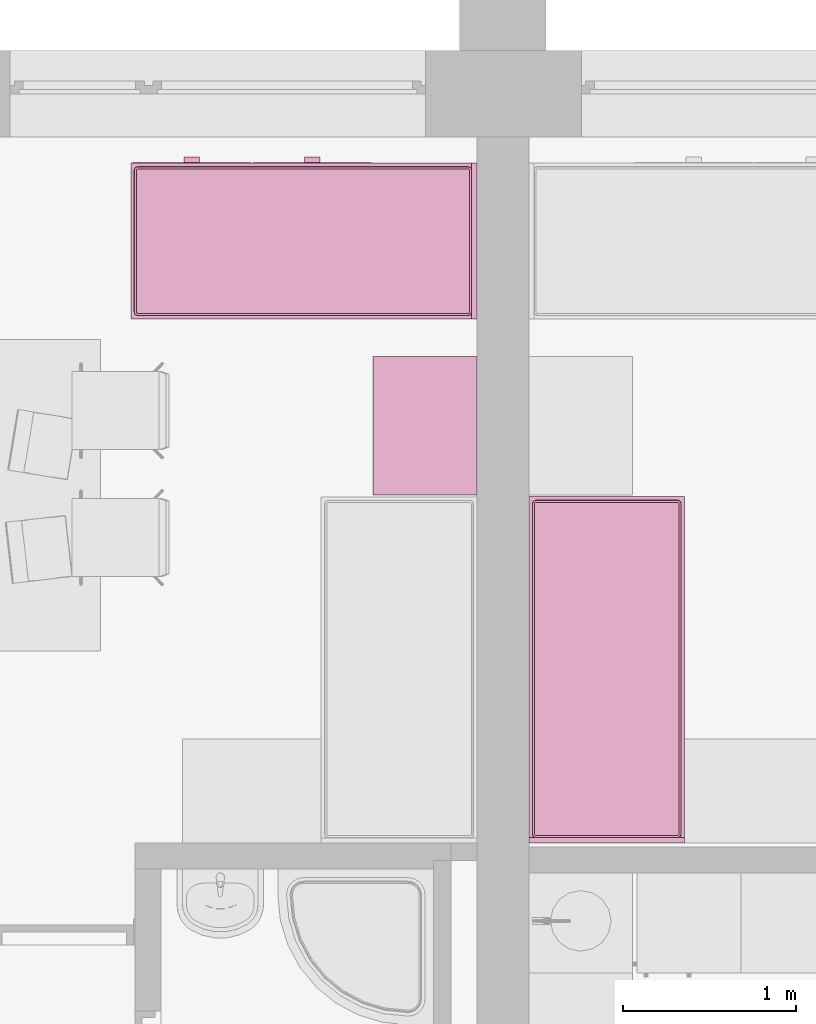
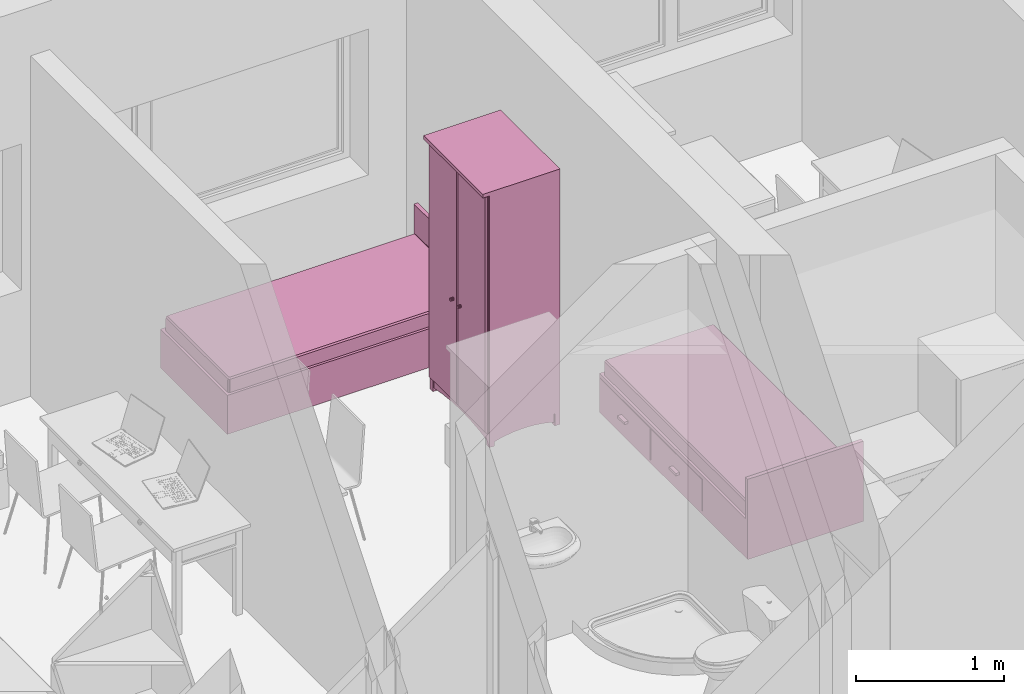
# One storey, part 136 of 165: 3 furnishings.
"""IFC2X3 building model written with IfcOpenShell, lengths in millimetres."""

from ifc_helpers import new_model, entity, si_unit, converted_unit, money_unit, direction, frame, origin_with_axes, place, context, subcontext, project, spatial, faceted_brep, source, transform, mapped, material, material_list, type_object, element, save


model = new_model("IFC2X3")

# Units and contexts
model_context = context("Model", 3, precision=1e-05, world=origin_with_axes(), true_north=direction((0.0, 1.0)))
body_context = subcontext(model_context, "Body", "Model", "MODEL_VIEW")
ifc_project = project(units=[si_unit("LENGTHUNIT", "METRE", prefix="MILLI"), si_unit("AREAUNIT", "SQUARE_METRE"), si_unit("VOLUMEUNIT", "CUBIC_METRE"), converted_unit("PLANEANGLEUNIT", "DEGREE", entity("IfcPlaneAngleMeasure", 0.0174532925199), si_unit("PLANEANGLEUNIT", "RADIAN"), dimensions=[0, 0, 0, 0, 0, 0, 0]), si_unit("SOLIDANGLEUNIT", "STERADIAN"), money_unit("USD"), converted_unit("TIMEUNIT", "Year", entity("IfcTimeMeasure", 31556926.0), si_unit("TIMEUNIT", "SECOND"), dimensions=[0, 0, 0, 0, 0, 0, 0]), si_unit("MASSUNIT", "GRAM"), si_unit("THERMODYNAMICTEMPERATUREUNIT", "DEGREE_CELSIUS"), si_unit("LUMINOUSINTENSITYUNIT", "LUMEN")], contexts=[model_context])

# Site, building, storey
site_placement = place(None, origin_with_axes())
site = spatial("IfcSite", under=ifc_project, at=site_placement, Name="Site", CompositionType="ELEMENT")
building_placement = place(site_placement, origin_with_axes())
building = spatial("IfcBuilding", under=site, at=building_placement, Name="Building", CompositionType="ELEMENT")
storey_placement = place(building_placement, frame((0.0, 0.0, 6300.0), z_axis=(0.0, 0.0, 1.0), x_axis=(1.0, 0.0, 0.0)))
storey = spatial("IfcBuildingStorey", under=building, at=storey_placement, Name="4KORRUS", CompositionType="ELEMENT", Elevation=6300.0)

# Furnishings
ifc_material = material(Name="Background")
ifc_material_list = material_list([ifc_material])
furnishing_element_type_1 = type_object("IfcFurnishingElementType", Name="Bed 19")
shared_shape_1 = source(origin_with_axes(), body_context, "Body", "Brep", [
    faceted_brep([(900.0, 1970.0, 0.0), (0.0, 1970.0, 0.0), (0.0, 2000.0, 0.0), (900.0, 2000.0, 0.0), (900.0, 1970.0, 660.0), (0.0, 1970.0, 660.0), (0.0, 2000.0, 660.0), (900.0, 2000.0, 660.0)], [[[0, 1, 2, 3]], [[1, 0, 4, 5]], [[2, 1, 5, 6]], [[3, 2, 6, 7]], [[0, 3, 7, 4]], [[5, 4, 7, 6]]]),
    faceted_brep([(900.0, 0.0, 0.0), (0.0, 0.0, 0.0), (0.0, 1970.0, 0.0), (900.0, 1970.0, 0.0), (900.0, 0.0, 320.0), (0.0, 0.0, 320.0), (0.0, 1970.0, 320.0), (900.0, 1970.0, 320.0)], [[[0, 1, 2, 3]], [[1, 0, 4, 5]], [[2, 1, 5, 6]], [[3, 2, 6, 7]], [[0, 3, 7, 4]], [[5, 4, 7, 6]]]),
    faceted_brep([(905.0, 10.0, 30.0), (900.0, 10.0, 30.0), (900.0, 695.0, 30.0), (905.0, 695.0, 30.0), (905.0, 10.0, 290.0), (900.0, 10.0, 290.0), (900.0, 695.0, 290.0), (905.0, 695.0, 290.0)], [[[0, 1, 2, 3]], [[1, 0, 4, 5]], [[2, 1, 5, 6]], [[3, 2, 6, 7]], [[0, 3, 7, 4]], [[5, 4, 7, 6]]]),
    faceted_brep([(935.0, 307.5, 150.0), (905.0, 307.5, 150.0), (905.0, 397.5, 150.0), (935.0, 397.5, 150.0), (935.0, 307.5, 170.0), (905.0, 307.5, 170.0), (905.0, 397.5, 170.0), (935.0, 397.5, 170.0)], [[[0, 1, 2, 3]], [[1, 0, 4, 5]], [[2, 1, 5, 6]], [[3, 2, 6, 7]], [[0, 3, 7, 4]], [[5, 4, 7, 6]]]),
    faceted_brep([(905.0, 705.0, 30.0), (900.0, 705.0, 30.0), (900.0, 1390.0, 30.0), (905.0, 1390.0, 30.0), (905.0, 705.0, 290.0), (900.0, 705.0, 290.0), (900.0, 1390.0, 290.0), (905.0, 1390.0, 290.0)], [[[0, 1, 2, 3]], [[1, 0, 4, 5]], [[2, 1, 5, 6]], [[3, 2, 6, 7]], [[0, 3, 7, 4]], [[5, 4, 7, 6]]]),
    faceted_brep([(935.0, 1002.5, 150.0), (905.0, 1002.5, 150.0), (905.0, 1092.5, 150.0), (935.0, 1092.5, 150.0), (935.0, 1002.5, 170.0), (905.0, 1002.5, 170.0), (905.0, 1092.5, 170.0), (935.0, 1092.5, 170.0)], [[[0, 1, 2, 3]], [[1, 0, 4, 5]], [[2, 1, 5, 6]], [[3, 2, 6, 7]], [[0, 3, 7, 4]], [[5, 4, 7, 6]]]),
    faceted_brep([(20.0, 40.0, 350.0), (20.0, 1950.0, 350.0), (21.522, 1957.654, 350.0), (25.858, 1964.142, 350.0), (32.346, 1968.478, 350.0), (40.0, 1970.0, 350.0), (860.0, 1970.0, 350.0), (867.654, 1968.478, 350.0), (874.142, 1964.142, 350.0), (878.478, 1957.654, 350.0), (880.0, 1950.0, 350.0), (880.0, 40.0, 350.0), (878.478, 32.346, 350.0), (874.142, 25.858, 350.0), (867.654, 21.522, 350.0), (860.0, 20.0, 350.0), (40.0, 20.0, 350.0), (32.346, 21.522, 350.0), (25.858, 25.858, 350.0), (21.522, 32.346, 350.0), (20.0, 40.0, 420.0), (20.0, 1950.0, 420.0), (21.522, 1957.654, 420.0), (25.858, 1964.142, 420.0), (32.346, 1968.478, 420.0), (40.0, 1970.0, 420.0), (860.0, 1970.0, 420.0), (867.654, 1968.478, 420.0), (874.142, 1964.142, 420.0), (878.478, 1957.654, 420.0), (880.0, 1950.0, 420.0), (880.0, 40.0, 420.0), (878.478, 32.346, 420.0), (874.142, 25.858, 420.0), (867.654, 21.522, 420.0), (860.0, 20.0, 420.0), (40.0, 20.0, 420.0), (32.346, 21.522, 420.0), (25.858, 25.858, 420.0), (21.522, 32.346, 420.0), (21.522, 40.15, 427.654), (21.522, 1949.85, 427.654), (22.956, 1957.06, 427.654), (26.955, 1963.045, 427.654), (32.94, 1967.044, 427.654), (40.15, 1968.478, 427.654), (859.85, 1968.478, 427.654), (867.06, 1967.044, 427.654), (873.045, 1963.045, 427.654), (877.044, 1957.06, 427.654), (878.478, 1949.85, 427.654), (878.478, 40.15, 427.654), (877.044, 32.94, 427.654), (873.045, 26.955, 427.654), (867.06, 22.956, 427.654), (859.85, 21.522, 427.654), (40.15, 21.522, 427.654), (32.94, 22.956, 427.654), (26.955, 26.955, 427.654), (22.956, 32.94, 427.654), (32.346, 41.216, 438.478), (32.346, 1948.784, 438.478), (33.152, 1952.836, 438.478), (34.759, 1955.241, 438.478), (37.164, 1956.848, 438.478), (41.216, 1957.654, 438.478), (858.784, 1957.654, 438.478), (862.836, 1956.848, 438.478), (865.241, 1955.241, 438.478), (866.848, 1952.836, 438.478), (867.654, 1948.784, 438.478), (867.654, 41.216, 438.478), (866.848, 37.164, 438.478), (865.241, 34.759, 438.478), (862.836, 33.152, 438.478), (858.784, 32.346, 438.478), (41.216, 32.346, 438.478), (37.164, 33.152, 438.478), (34.759, 34.759, 438.478), (33.152, 37.164, 438.478), (40.0, 41.97, 440.0), (40.0, 1948.03, 440.0), (40.327, 1949.673, 440.0), (40.0, 1950.0, 439.924), (41.97, 1950.0, 440.0), (858.03, 1950.0, 440.0), (859.673, 1949.673, 440.0), (860.0, 1950.0, 439.924), (860.0, 1948.03, 440.0), (860.0, 41.97, 440.0), (859.673, 40.327, 440.0), (860.0, 40.0, 439.924), (858.03, 40.0, 440.0), (41.97, 40.0, 440.0), (40.327, 40.327, 440.0), (40.0, 40.0, 439.924)], [[[0, 1, 2, 3, 4, 5, 6, 7, 8, 9, 10, 11, 12, 13, 14, 15, 16, 17, 18, 19]], [[1, 0, 20, 21]], [[2, 1, 21, 22]], [[3, 2, 22, 23]], [[4, 3, 23, 24]], [[5, 4, 24, 25]], [[6, 5, 25, 26]], [[7, 6, 26, 27]], [[8, 7, 27, 28]], [[9, 8, 28, 29]], [[10, 9, 29, 30]], [[11, 10, 30, 31]], [[12, 11, 31, 32]], [[13, 12, 32, 33]], [[14, 13, 33, 34]], [[15, 14, 34, 35]], [[16, 15, 35, 36]], [[17, 16, 36, 37]], [[18, 17, 37, 38]], [[19, 18, 38, 39]], [[0, 19, 39, 20]], [[21, 20, 40, 41]], [[22, 21, 41, 42]], [[23, 22, 42, 43]], [[24, 23, 43, 44]], [[25, 24, 44, 45]], [[26, 25, 45, 46]], [[27, 26, 46, 47]], [[28, 27, 47, 48]], [[29, 28, 48, 49]], [[30, 29, 49, 50]], [[31, 30, 50, 51]], [[32, 31, 51, 52]], [[33, 32, 52, 53]], [[34, 33, 53, 54]], [[35, 34, 54, 55]], [[36, 35, 55, 56]], [[37, 36, 56, 57]], [[38, 37, 57, 58]], [[39, 38, 58, 59]], [[20, 39, 59, 40]], [[41, 40, 60, 61]], [[42, 41, 61, 62]], [[43, 42, 62, 63]], [[44, 43, 63, 64]], [[45, 44, 64, 65]], [[46, 45, 65, 66]], [[47, 46, 66, 67]], [[48, 47, 67, 68]], [[49, 48, 68, 69]], [[50, 49, 69, 70]], [[51, 50, 70, 71]], [[52, 51, 71, 72]], [[53, 52, 72, 73]], [[54, 53, 73, 74]], [[55, 54, 74, 75]], [[56, 55, 75, 76]], [[57, 56, 76, 77]], [[58, 57, 77, 78]], [[59, 58, 78, 79]], [[40, 59, 79, 60]], [[61, 60, 80, 81]], [[62, 61, 81, 82, 83]], [[63, 62, 83]], [[64, 63, 83]], [[65, 64, 83, 82, 84]], [[66, 65, 84, 85]], [[67, 66, 85, 86, 87]], [[68, 67, 87]], [[69, 68, 87]], [[70, 69, 87, 86, 88]], [[71, 70, 88, 89]], [[72, 71, 89, 90, 91]], [[73, 72, 91]], [[74, 73, 91]], [[75, 74, 91, 90, 92]], [[76, 75, 92, 93]], [[77, 76, 93, 94, 95]], [[78, 77, 95]], [[79, 78, 95]], [[60, 79, 95, 94, 80]], [[81, 80, 94, 93, 92, 90, 89, 88, 86, 85, 84, 82]]]),
    faceted_brep([(20.0, 40.0, 350.0), (21.522, 32.346, 350.0), (25.858, 25.858, 350.0), (32.346, 21.522, 350.0), (40.0, 20.0, 350.0), (860.0, 20.0, 350.0), (867.654, 21.522, 350.0), (874.142, 25.858, 350.0), (878.478, 32.346, 350.0), (880.0, 40.0, 350.0), (880.0, 1950.0, 350.0), (878.478, 1957.654, 350.0), (874.142, 1964.142, 350.0), (867.654, 1968.478, 350.0), (860.0, 1970.0, 350.0), (40.0, 1970.0, 350.0), (32.346, 1968.478, 350.0), (25.858, 1964.142, 350.0), (21.522, 1957.654, 350.0), (20.0, 1950.0, 350.0), (20.0, 40.0, 320.0), (21.522, 32.346, 320.0), (25.858, 25.858, 320.0), (32.346, 21.522, 320.0), (40.0, 20.0, 320.0), (860.0, 20.0, 320.0), (867.654, 21.522, 320.0), (874.142, 25.858, 320.0), (878.478, 32.346, 320.0), (880.0, 40.0, 320.0), (880.0, 1950.0, 320.0), (878.478, 1957.654, 320.0), (874.142, 1964.142, 320.0), (867.654, 1968.478, 320.0), (860.0, 1970.0, 320.0), (40.0, 1970.0, 320.0), (32.346, 1968.478, 320.0), (25.858, 1964.142, 320.0), (21.522, 1957.654, 320.0), (20.0, 1950.0, 320.0)], [[[0, 1, 2, 3, 4, 5, 6, 7, 8, 9, 10, 11, 12, 13, 14, 15, 16, 17, 18, 19]], [[0, 20, 21, 1]], [[1, 21, 22, 2]], [[2, 22, 23, 3]], [[3, 23, 24, 4]], [[4, 24, 25, 5]], [[5, 25, 26, 6]], [[6, 26, 27, 7]], [[7, 27, 28, 8]], [[8, 28, 29, 9]], [[9, 29, 30, 10]], [[10, 30, 31, 11]], [[11, 31, 32, 12]], [[12, 32, 33, 13]], [[13, 33, 34, 14]], [[14, 34, 35, 15]], [[15, 35, 36, 16]], [[16, 36, 37, 17]], [[17, 37, 38, 18]], [[18, 38, 39, 19]], [[19, 39, 20, 0]], [[20, 39, 38, 37, 36, 35, 34, 33, 32, 31, 30, 29, 28, 27, 26, 25, 24, 23, 22, 21]]]),
])
furnishing_1_placement = place(storey_placement, frame((6909.70329669, -7216.37850445, 0.0), z_axis=(0.0, 0.0, 1.0), x_axis=(-1.0, 0.0, 0.0)))
element("IfcFurnishingElement", 1, at=furnishing_1_placement, inside=storey, type_object=furnishing_element_type_1, material=ifc_material_list, Name="FU - 013", context=body_context, shape_type="MappedRepresentation", body=[
    mapped(shared_shape_1, transform((0.0, 0.0, 0.0))),
])
furnishing_element_type_2 = type_object("IfcFurnishingElementType", Name="Cupboard 19")
shared_shape_2 = source(origin_with_axes(), body_context, "Body", "Brep", [
    faceted_brep([(-780.0, 600.0, 120.0), (-780.0, 580.0, 120.0), (-780.0, 580.0, 2050.0), (-780.0, 600.0, 2050.0), (-20.0, 600.0, 120.0), (-20.0, 580.0, 120.0), (-20.0, 580.0, 2050.0), (-20.0, 600.0, 2050.0)], [[[0, 1, 2, 3]], [[0, 4, 5, 1]], [[1, 5, 6, 2]], [[3, 2, 6, 7]], [[4, 0, 3, 7]], [[5, 4, 7, 6]]]),
    faceted_brep([(0.0, 50.0, 100.0), (-20.0, 50.0, 100.0), (-20.0, 600.0, 100.0), (0.0, 600.0, 100.0), (0.0, 50.0, 2070.0), (-20.0, 50.0, 2070.0), (-20.0, 600.0, 2070.0), (0.0, 600.0, 2070.0)], [[[0, 1, 2, 3]], [[1, 0, 4, 5]], [[2, 1, 5, 6]], [[3, 2, 6, 7]], [[0, 3, 7, 4]], [[5, 4, 7, 6]]]),
    faceted_brep([(-780.0, 50.0, 100.0), (-800.0, 50.0, 100.0), (-800.0, 600.0, 100.0), (-780.0, 600.0, 100.0), (-780.0, 50.0, 2070.0), (-800.0, 50.0, 2070.0), (-800.0, 600.0, 2070.0), (-780.0, 600.0, 2070.0)], [[[0, 1, 2, 3]], [[1, 0, 4, 5]], [[2, 1, 5, 6]], [[3, 2, 6, 7]], [[0, 3, 7, 4]], [[5, 4, 7, 6]]]),
    faceted_brep([(-20.0, 50.0, 100.0), (-780.0, 50.0, 100.0), (-780.0, 600.0, 100.0), (-20.0, 600.0, 100.0), (-20.0, 50.0, 120.0), (-780.0, 50.0, 120.0), (-780.0, 600.0, 120.0), (-20.0, 600.0, 120.0)], [[[0, 1, 2, 3]], [[1, 0, 4, 5]], [[2, 1, 5, 6]], [[3, 2, 6, 7]], [[0, 3, 7, 4]], [[5, 4, 7, 6]]]),
    faceted_brep([(-20.0, 50.0, 2050.0), (-780.0, 50.0, 2050.0), (-780.0, 600.0, 2050.0), (-20.0, 600.0, 2050.0), (-20.0, 50.0, 2070.0), (-780.0, 50.0, 2070.0), (-780.0, 600.0, 2070.0), (-20.0, 600.0, 2070.0)], [[[0, 1, 2, 3]], [[1, 0, 4, 5]], [[2, 1, 5, 6]], [[3, 2, 6, 7]], [[0, 3, 7, 4]], [[5, 4, 7, 6]]]),
    faceted_brep([(0.0, 600.0, 2070.0), (0.0, 600.0, 2100.0), (0.0, 0.0, 2100.0), (0.0, 0.0, 2070.0), (-800.0, 600.0, 2070.0), (-800.0, 600.0, 2100.0), (-800.0, 0.0, 2100.0), (-800.0, 0.0, 2070.0)], [[[0, 1, 2, 3]], [[4, 5, 1, 0]], [[1, 5, 6, 2]], [[3, 2, 6, 7]], [[0, 3, 7, 4]], [[7, 6, 5, 4]]]),
    faceted_brep([(-760.0, 590.0, 25.0), (-640.962, 590.0, 45.8), (-640.962, 570.0, 45.8), (-760.0, 570.0, 25.0), (-760.0, 590.0, 100.0), (-40.0, 590.0, 100.0), (-40.0, 590.0, 25.0), (-159.038, 590.0, 45.8), (-279.23, 590.0, 58.32), (-400.0, 590.0, 62.5), (-520.77, 590.0, 58.32), (-520.77, 570.0, 58.32), (-400.0, 570.0, 62.5), (-279.23, 570.0, 58.32), (-159.038, 570.0, 45.8), (-40.0, 570.0, 25.0), (-40.0, 570.0, 100.0), (-760.0, 570.0, 100.0)], [[[0, 1, 2, 3]], [[0, 4, 5, 6, 7, 8, 9, 10, 1]], [[1, 10, 11, 2]], [[3, 2, 11, 12, 13, 14, 15, 16, 17]], [[4, 0, 3, 17]], [[5, 4, 17, 16]], [[6, 5, 16, 15]], [[7, 6, 15, 14]], [[8, 7, 14, 13]], [[9, 8, 13, 12]], [[10, 9, 12, 11]]]),
    faceted_brep([(-760.0, 80.0, 25.0), (-640.962, 80.0, 45.8), (-640.962, 60.0, 45.8), (-760.0, 60.0, 25.0), (-760.0, 80.0, 100.0), (-40.0, 80.0, 100.0), (-40.0, 80.0, 25.0), (-159.038, 80.0, 45.8), (-279.23, 80.0, 58.32), (-400.0, 80.0, 62.5), (-520.77, 80.0, 58.32), (-520.77, 60.0, 58.32), (-400.0, 60.0, 62.5), (-279.23, 60.0, 58.32), (-159.038, 60.0, 45.8), (-40.0, 60.0, 25.0), (-40.0, 60.0, 100.0), (-760.0, 60.0, 100.0)], [[[0, 1, 2, 3]], [[0, 4, 5, 6, 7, 8, 9, 10, 1]], [[1, 10, 11, 2]], [[3, 2, 11, 12, 13, 14, 15, 16, 17]], [[4, 0, 3, 17]], [[5, 4, 17, 16]], [[6, 5, 16, 15]], [[7, 6, 15, 14]], [[8, 7, 14, 13]], [[9, 8, 13, 12]], [[10, 9, 12, 11]]]),
    faceted_brep([(-790.0, 90.0, 25.0), (-790.0, 141.266, 38.072), (-770.0, 141.266, 38.072), (-770.0, 90.0, 25.0), (-790.0, 90.0, 100.0), (-790.0, 560.0, 100.0), (-790.0, 560.0, 25.0), (-790.0, 508.734, 38.072), (-790.0, 456.752, 47.92), (-790.0, 404.257, 54.508), (-790.0, 351.453, 57.808), (-790.0, 298.547, 57.808), (-790.0, 245.743, 54.508), (-790.0, 193.248, 47.92), (-770.0, 193.248, 47.92), (-770.0, 245.743, 54.508), (-770.0, 298.547, 57.808), (-770.0, 351.453, 57.808), (-770.0, 404.257, 54.508), (-770.0, 456.752, 47.92), (-770.0, 508.734, 38.072), (-770.0, 560.0, 25.0), (-770.0, 560.0, 100.0), (-770.0, 90.0, 100.0)], [[[0, 1, 2, 3]], [[0, 4, 5, 6, 7, 8, 9, 10, 11, 12, 13, 1]], [[1, 13, 14, 2]], [[3, 2, 14, 15, 16, 17, 18, 19, 20, 21, 22, 23]], [[4, 0, 3, 23]], [[5, 4, 23, 22]], [[6, 5, 22, 21]], [[7, 6, 21, 20]], [[8, 7, 20, 19]], [[9, 8, 19, 18]], [[10, 9, 18, 17]], [[11, 10, 17, 16]], [[12, 11, 16, 15]], [[13, 12, 15, 14]]]),
    faceted_brep([(-30.0, 90.0, 25.0), (-30.0, 141.266, 38.072), (-10.0, 141.266, 38.072), (-10.0, 90.0, 25.0), (-30.0, 90.0, 100.0), (-30.0, 560.0, 100.0), (-30.0, 560.0, 25.0), (-30.0, 508.734, 38.072), (-30.0, 456.752, 47.92), (-30.0, 404.257, 54.508), (-30.0, 351.453, 57.808), (-30.0, 298.547, 57.808), (-30.0, 245.743, 54.508), (-30.0, 193.248, 47.92), (-10.0, 193.248, 47.92), (-10.0, 245.743, 54.508), (-10.0, 298.547, 57.808), (-10.0, 351.453, 57.808), (-10.0, 404.257, 54.508), (-10.0, 456.752, 47.92), (-10.0, 508.734, 38.072), (-10.0, 560.0, 25.0), (-10.0, 560.0, 100.0), (-10.0, 90.0, 100.0)], [[[0, 1, 2, 3]], [[0, 4, 5, 6, 7, 8, 9, 10, 11, 12, 13, 1]], [[1, 13, 14, 2]], [[3, 2, 14, 15, 16, 17, 18, 19, 20, 21, 22, 23]], [[4, 0, 3, 23]], [[5, 4, 23, 22]], [[6, 5, 22, 21]], [[7, 6, 21, 20]], [[8, 7, 20, 19]], [[9, 8, 19, 18]], [[10, 9, 18, 17]], [[11, 10, 17, 16]], [[12, 11, 16, 15]], [[13, 12, 15, 14]]]),
    faceted_brep([(-760.0, 560.0, 0.0), (-760.0, 600.0, 0.0), (-760.0, 600.0, 100.0), (-760.0, 560.0, 100.0), (-800.0, 560.0, 0.0), (-800.0, 600.0, 0.0), (-800.0, 600.0, 100.0), (-800.0, 560.0, 100.0)], [[[0, 1, 2, 3]], [[0, 4, 5, 1]], [[1, 5, 6, 2]], [[3, 2, 6, 7]], [[4, 0, 3, 7]], [[5, 4, 7, 6]]]),
    faceted_brep([(0.0, 560.0, 0.0), (0.0, 600.0, 0.0), (0.0, 600.0, 100.0), (0.0, 560.0, 100.0), (-40.0, 560.0, 0.0), (-40.0, 600.0, 0.0), (-40.0, 600.0, 100.0), (-40.0, 560.0, 100.0)], [[[0, 1, 2, 3]], [[0, 4, 5, 1]], [[1, 5, 6, 2]], [[3, 2, 6, 7]], [[4, 0, 3, 7]], [[5, 4, 7, 6]]]),
    faceted_brep([(-760.0, 50.0, 0.0), (-760.0, 90.0, 0.0), (-760.0, 90.0, 100.0), (-760.0, 50.0, 100.0), (-800.0, 50.0, 0.0), (-800.0, 90.0, 0.0), (-800.0, 90.0, 100.0), (-800.0, 50.0, 100.0)], [[[0, 1, 2, 3]], [[0, 4, 5, 1]], [[1, 5, 6, 2]], [[3, 2, 6, 7]], [[4, 0, 3, 7]], [[5, 4, 7, 6]]]),
    faceted_brep([(0.0, 50.0, 0.0), (0.0, 90.0, 0.0), (0.0, 90.0, 100.0), (0.0, 50.0, 100.0), (-40.0, 50.0, 0.0), (-40.0, 90.0, 0.0), (-40.0, 90.0, 100.0), (-40.0, 50.0, 100.0)], [[[0, 1, 2, 3]], [[0, 4, 5, 1]], [[1, 5, 6, 2]], [[3, 2, 6, 7]], [[4, 0, 3, 7]], [[5, 4, 7, 6]]]),
    faceted_brep([(-780.0, 580.0, 587.5), (-780.0, 50.0, 587.5), (-780.0, 50.0, 607.5), (-780.0, 580.0, 607.5), (-20.0, 580.0, 587.5), (-20.0, 50.0, 587.5), (-20.0, 50.0, 607.5), (-20.0, 580.0, 607.5)], [[[0, 1, 2, 3]], [[0, 4, 5, 1]], [[1, 5, 6, 2]], [[3, 2, 6, 7]], [[4, 0, 3, 7]], [[5, 4, 7, 6]]]),
    faceted_brep([(-780.0, 580.0, 1075.0), (-780.0, 50.0, 1075.0), (-780.0, 50.0, 1095.0), (-780.0, 580.0, 1095.0), (-20.0, 580.0, 1075.0), (-20.0, 50.0, 1075.0), (-20.0, 50.0, 1095.0), (-20.0, 580.0, 1095.0)], [[[0, 1, 2, 3]], [[0, 4, 5, 1]], [[1, 5, 6, 2]], [[3, 2, 6, 7]], [[4, 0, 3, 7]], [[5, 4, 7, 6]]]),
    faceted_brep([(-780.0, 580.0, 1562.5), (-780.0, 50.0, 1562.5), (-780.0, 50.0, 1582.5), (-780.0, 580.0, 1582.5), (-20.0, 580.0, 1562.5), (-20.0, 50.0, 1562.5), (-20.0, 50.0, 1582.5), (-20.0, 580.0, 1582.5)], [[[0, 1, 2, 3]], [[0, 4, 5, 1]], [[1, 5, 6, 2]], [[3, 2, 6, 7]], [[4, 0, 3, 7]], [[5, 4, 7, 6]]]),
    faceted_brep([(-789.5, 50.0, 110.5), (-789.5, 50.0, 2059.5), (-400.5, 50.0, 2059.5), (-400.5, 50.0, 110.5), (-789.5, 40.0, 110.5), (-789.5, 40.0, 2059.5), (-400.5, 40.0, 2059.5), (-400.5, 40.0, 110.5), (-779.5, 30.0, 120.5), (-779.5, 30.0, 2049.5), (-410.5, 30.0, 2049.5), (-410.5, 30.0, 120.5)], [[[0, 1, 2, 3]], [[1, 0, 4, 5]], [[2, 1, 5, 6]], [[3, 2, 6, 7]], [[0, 3, 7, 4]], [[5, 4, 8, 9]], [[6, 5, 9, 10]], [[7, 6, 10, 11]], [[4, 7, 11, 8]], [[10, 9, 8, 11]]]),
    faceted_brep([(-399.5, 50.0, 110.5), (-399.5, 50.0, 2059.5), (-10.5, 50.0, 2059.5), (-10.5, 50.0, 110.5), (-399.5, 40.0, 110.5), (-399.5, 40.0, 2059.5), (-10.5, 40.0, 2059.5), (-10.5, 40.0, 110.5), (-389.5, 30.0, 120.5), (-389.5, 30.0, 2049.5), (-20.5, 30.0, 2049.5), (-20.5, 30.0, 120.5)], [[[0, 1, 2, 3]], [[1, 0, 4, 5]], [[2, 1, 5, 6]], [[3, 2, 6, 7]], [[0, 3, 7, 4]], [[5, 4, 8, 9]], [[6, 5, 9, 10]], [[7, 6, 10, 11]], [[4, 7, 11, 8]], [[10, 9, 8, 11]]]),
    faceted_brep([(-339.608, 30.0, 954.0), (-344.0, 30.0, 949.608), (-350.0, 30.0, 948.0), (-356.0, 30.0, 949.608), (-360.392, 30.0, 954.0), (-362.0, 30.0, 960.0), (-360.392, 30.0, 966.0), (-356.0, 30.0, 970.392), (-350.0, 30.0, 972.0), (-344.0, 30.0, 970.392), (-339.608, 30.0, 966.0), (-338.0, 30.0, 960.0), (-339.608, 5.0, 954.0), (-344.0, 5.0, 949.608), (-350.0, 5.0, 948.0), (-356.0, 5.0, 949.608), (-360.392, 5.0, 954.0), (-362.0, 5.0, 960.0), (-360.392, 5.0, 966.0), (-356.0, 5.0, 970.392), (-350.0, 5.0, 972.0), (-344.0, 5.0, 970.392), (-339.608, 5.0, 966.0), (-338.0, 5.0, 960.0)], [[[0, 1, 2, 3, 4, 5, 6, 7, 8, 9, 10, 11]], [[1, 0, 12, 13]], [[2, 1, 13, 14]], [[3, 2, 14, 15]], [[4, 3, 15, 16]], [[5, 4, 16, 17]], [[6, 5, 17, 18]], [[7, 6, 18, 19]], [[8, 7, 19, 20]], [[9, 8, 20, 21]], [[10, 9, 21, 22]], [[11, 10, 22, 23]], [[0, 11, 23, 12]], [[12, 23, 22, 21, 20, 19, 18, 17, 16, 15, 14, 13]]]),
    faceted_brep([(-460.392, 30.0, 954.0), (-462.0, 30.0, 960.0), (-460.392, 30.0, 966.0), (-456.0, 30.0, 970.392), (-450.0, 30.0, 972.0), (-444.0, 30.0, 970.392), (-439.608, 30.0, 966.0), (-438.0, 30.0, 960.0), (-439.608, 30.0, 954.0), (-444.0, 30.0, 949.608), (-450.0, 30.0, 948.0), (-456.0, 30.0, 949.608), (-460.392, 5.0, 954.0), (-462.0, 5.0, 960.0), (-460.392, 5.0, 966.0), (-456.0, 5.0, 970.392), (-450.0, 5.0, 972.0), (-444.0, 5.0, 970.392), (-439.608, 5.0, 966.0), (-438.0, 5.0, 960.0), (-439.608, 5.0, 954.0), (-444.0, 5.0, 949.608), (-450.0, 5.0, 948.0), (-456.0, 5.0, 949.608)], [[[0, 1, 2, 3, 4, 5, 6, 7, 8, 9, 10, 11]], [[0, 12, 13, 1]], [[1, 13, 14, 2]], [[2, 14, 15, 3]], [[3, 15, 16, 4]], [[4, 16, 17, 5]], [[5, 17, 18, 6]], [[6, 18, 19, 7]], [[7, 19, 20, 8]], [[8, 20, 21, 9]], [[9, 21, 22, 10]], [[10, 22, 23, 11]], [[11, 23, 12, 0]], [[12, 23, 22, 21, 20, 19, 18, 17, 16, 15, 14, 13]]]),
])
furnishing_2_placement = place(storey_placement, frame((5109.70329669, -7207.41563755, 0.0), z_axis=(0.0, 0.0, 1.0), x_axis=(0.0, -1.0, 0.0)))
element("IfcFurnishingElement", 2, at=furnishing_2_placement, inside=storey, type_object=furnishing_element_type_2, material=ifc_material_list, Name="FU - 014", context=body_context, shape_type="MappedRepresentation", body=[
    mapped(shared_shape_2, transform((0.0, 0.0, 0.0))),
])
shared_shape_3 = source(origin_with_axes(), body_context, "Body", "Brep", [
    faceted_brep([(-900.0, 1970.0, 0.0), (-900.0, 2000.0, 0.0), (0.0, 2000.0, 0.0), (0.0, 1970.0, 0.0), (-900.0, 1970.0, 660.0), (-900.0, 2000.0, 660.0), (0.0, 2000.0, 660.0), (0.0, 1970.0, 660.0)], [[[0, 1, 2, 3]], [[0, 4, 5, 1]], [[1, 5, 6, 2]], [[2, 6, 7, 3]], [[3, 7, 4, 0]], [[7, 6, 5, 4]]]),
    faceted_brep([(-900.0, 0.0, 0.0), (-900.0, 1970.0, 0.0), (0.0, 1970.0, 0.0), (0.0, 0.0, 0.0), (-900.0, 0.0, 320.0), (-900.0, 1970.0, 320.0), (0.0, 1970.0, 320.0), (0.0, 0.0, 320.0)], [[[0, 1, 2, 3]], [[0, 4, 5, 1]], [[1, 5, 6, 2]], [[2, 6, 7, 3]], [[3, 7, 4, 0]], [[7, 6, 5, 4]]]),
    faceted_brep([(-905.0, 10.0, 30.0), (-905.0, 695.0, 30.0), (-900.0, 695.0, 30.0), (-900.0, 10.0, 30.0), (-905.0, 10.0, 290.0), (-905.0, 695.0, 290.0), (-900.0, 695.0, 290.0), (-900.0, 10.0, 290.0)], [[[0, 1, 2, 3]], [[0, 4, 5, 1]], [[1, 5, 6, 2]], [[2, 6, 7, 3]], [[3, 7, 4, 0]], [[7, 6, 5, 4]]]),
    faceted_brep([(-935.0, 307.5, 150.0), (-935.0, 397.5, 150.0), (-905.0, 397.5, 150.0), (-905.0, 307.5, 150.0), (-935.0, 307.5, 170.0), (-935.0, 397.5, 170.0), (-905.0, 397.5, 170.0), (-905.0, 307.5, 170.0)], [[[0, 1, 2, 3]], [[0, 4, 5, 1]], [[1, 5, 6, 2]], [[2, 6, 7, 3]], [[3, 7, 4, 0]], [[7, 6, 5, 4]]]),
    faceted_brep([(-905.0, 705.0, 30.0), (-905.0, 1390.0, 30.0), (-900.0, 1390.0, 30.0), (-900.0, 705.0, 30.0), (-905.0, 705.0, 290.0), (-905.0, 1390.0, 290.0), (-900.0, 1390.0, 290.0), (-900.0, 705.0, 290.0)], [[[0, 1, 2, 3]], [[0, 4, 5, 1]], [[1, 5, 6, 2]], [[2, 6, 7, 3]], [[3, 7, 4, 0]], [[7, 6, 5, 4]]]),
    faceted_brep([(-935.0, 1002.5, 150.0), (-935.0, 1092.5, 150.0), (-905.0, 1092.5, 150.0), (-905.0, 1002.5, 150.0), (-935.0, 1002.5, 170.0), (-935.0, 1092.5, 170.0), (-905.0, 1092.5, 170.0), (-905.0, 1002.5, 170.0)], [[[0, 1, 2, 3]], [[0, 4, 5, 1]], [[1, 5, 6, 2]], [[2, 6, 7, 3]], [[3, 7, 4, 0]], [[7, 6, 5, 4]]]),
    faceted_brep([(-20.0, 40.0, 350.0), (-21.522, 32.346, 350.0), (-25.858, 25.858, 350.0), (-32.346, 21.522, 350.0), (-40.0, 20.0, 350.0), (-860.0, 20.0, 350.0), (-867.654, 21.522, 350.0), (-874.142, 25.858, 350.0), (-878.478, 32.346, 350.0), (-880.0, 40.0, 350.0), (-880.0, 1950.0, 350.0), (-878.478, 1957.654, 350.0), (-874.142, 1964.142, 350.0), (-867.654, 1968.478, 350.0), (-860.0, 1970.0, 350.0), (-40.0, 1970.0, 350.0), (-32.346, 1968.478, 350.0), (-25.858, 1964.142, 350.0), (-21.522, 1957.654, 350.0), (-20.0, 1950.0, 350.0), (-20.0, 40.0, 420.0), (-21.522, 32.346, 420.0), (-25.858, 25.858, 420.0), (-32.346, 21.522, 420.0), (-40.0, 20.0, 420.0), (-860.0, 20.0, 420.0), (-867.654, 21.522, 420.0), (-874.142, 25.858, 420.0), (-878.478, 32.346, 420.0), (-880.0, 40.0, 420.0), (-880.0, 1950.0, 420.0), (-878.478, 1957.654, 420.0), (-874.142, 1964.142, 420.0), (-867.654, 1968.478, 420.0), (-860.0, 1970.0, 420.0), (-40.0, 1970.0, 420.0), (-32.346, 1968.478, 420.0), (-25.858, 1964.142, 420.0), (-21.522, 1957.654, 420.0), (-20.0, 1950.0, 420.0), (-21.522, 40.15, 427.654), (-22.956, 32.94, 427.654), (-26.955, 26.955, 427.654), (-32.94, 22.956, 427.654), (-40.15, 21.522, 427.654), (-859.85, 21.522, 427.654), (-867.06, 22.956, 427.654), (-873.045, 26.955, 427.654), (-877.044, 32.94, 427.654), (-878.478, 40.15, 427.654), (-878.478, 1949.85, 427.654), (-877.044, 1957.06, 427.654), (-873.045, 1963.045, 427.654), (-867.06, 1967.044, 427.654), (-859.85, 1968.478, 427.654), (-40.15, 1968.478, 427.654), (-32.94, 1967.044, 427.654), (-26.955, 1963.045, 427.654), (-22.956, 1957.06, 427.654), (-21.522, 1949.85, 427.654), (-32.346, 41.216, 438.478), (-33.152, 37.164, 438.478), (-34.759, 34.759, 438.478), (-37.164, 33.152, 438.478), (-41.216, 32.346, 438.478), (-858.784, 32.346, 438.478), (-862.836, 33.152, 438.478), (-865.241, 34.759, 438.478), (-866.848, 37.164, 438.478), (-867.654, 41.216, 438.478), (-867.654, 1948.784, 438.478), (-866.848, 1952.836, 438.478), (-865.241, 1955.241, 438.478), (-862.836, 1956.848, 438.478), (-858.784, 1957.654, 438.478), (-41.216, 1957.654, 438.478), (-37.164, 1956.848, 438.478), (-34.759, 1955.241, 438.478), (-33.152, 1952.836, 438.478), (-32.346, 1948.784, 438.478), (-40.0, 41.97, 440.0), (-40.327, 40.327, 440.0), (-40.0, 40.0, 439.924), (-41.97, 40.0, 440.0), (-858.03, 40.0, 440.0), (-859.673, 40.327, 440.0), (-860.0, 40.0, 439.924), (-860.0, 41.97, 440.0), (-860.0, 1948.03, 440.0), (-859.673, 1949.673, 440.0), (-860.0, 1950.0, 439.924), (-858.03, 1950.0, 440.0), (-41.97, 1950.0, 440.0), (-40.327, 1949.673, 440.0), (-40.0, 1950.0, 439.924), (-40.0, 1948.03, 440.0)], [[[0, 1, 2, 3, 4, 5, 6, 7, 8, 9, 10, 11, 12, 13, 14, 15, 16, 17, 18, 19]], [[0, 20, 21, 1]], [[1, 21, 22, 2]], [[2, 22, 23, 3]], [[3, 23, 24, 4]], [[4, 24, 25, 5]], [[5, 25, 26, 6]], [[6, 26, 27, 7]], [[7, 27, 28, 8]], [[8, 28, 29, 9]], [[9, 29, 30, 10]], [[10, 30, 31, 11]], [[11, 31, 32, 12]], [[12, 32, 33, 13]], [[13, 33, 34, 14]], [[14, 34, 35, 15]], [[15, 35, 36, 16]], [[16, 36, 37, 17]], [[17, 37, 38, 18]], [[18, 38, 39, 19]], [[19, 39, 20, 0]], [[20, 40, 41, 21]], [[21, 41, 42, 22]], [[22, 42, 43, 23]], [[23, 43, 44, 24]], [[24, 44, 45, 25]], [[25, 45, 46, 26]], [[26, 46, 47, 27]], [[27, 47, 48, 28]], [[28, 48, 49, 29]], [[29, 49, 50, 30]], [[30, 50, 51, 31]], [[31, 51, 52, 32]], [[32, 52, 53, 33]], [[33, 53, 54, 34]], [[34, 54, 55, 35]], [[35, 55, 56, 36]], [[36, 56, 57, 37]], [[37, 57, 58, 38]], [[38, 58, 59, 39]], [[39, 59, 40, 20]], [[40, 60, 61, 41]], [[41, 61, 62, 42]], [[42, 62, 63, 43]], [[43, 63, 64, 44]], [[44, 64, 65, 45]], [[45, 65, 66, 46]], [[46, 66, 67, 47]], [[47, 67, 68, 48]], [[48, 68, 69, 49]], [[49, 69, 70, 50]], [[50, 70, 71, 51]], [[51, 71, 72, 52]], [[52, 72, 73, 53]], [[53, 73, 74, 54]], [[54, 74, 75, 55]], [[55, 75, 76, 56]], [[56, 76, 77, 57]], [[57, 77, 78, 58]], [[58, 78, 79, 59]], [[59, 79, 60, 40]], [[60, 80, 81, 82, 61]], [[61, 82, 62]], [[62, 82, 63]], [[63, 82, 81, 83, 64]], [[64, 83, 84, 65]], [[65, 84, 85, 86, 66]], [[66, 86, 67]], [[67, 86, 68]], [[68, 86, 85, 87, 69]], [[69, 87, 88, 70]], [[70, 88, 89, 90, 71]], [[71, 90, 72]], [[72, 90, 73]], [[73, 90, 89, 91, 74]], [[74, 91, 92, 75]], [[75, 92, 93, 94, 76]], [[76, 94, 77]], [[77, 94, 78]], [[78, 94, 93, 95, 79]], [[79, 95, 80, 60]], [[95, 93, 92, 91, 89, 88, 87, 85, 84, 83, 81, 80]]]),
    faceted_brep([(-20.0, 40.0, 350.0), (-20.0, 1950.0, 350.0), (-21.522, 1957.654, 350.0), (-25.858, 1964.142, 350.0), (-32.346, 1968.478, 350.0), (-40.0, 1970.0, 350.0), (-860.0, 1970.0, 350.0), (-867.654, 1968.478, 350.0), (-874.142, 1964.142, 350.0), (-878.478, 1957.654, 350.0), (-880.0, 1950.0, 350.0), (-880.0, 40.0, 350.0), (-878.478, 32.346, 350.0), (-874.142, 25.858, 350.0), (-867.654, 21.522, 350.0), (-860.0, 20.0, 350.0), (-40.0, 20.0, 350.0), (-32.346, 21.522, 350.0), (-25.858, 25.858, 350.0), (-21.522, 32.346, 350.0), (-20.0, 40.0, 320.0), (-20.0, 1950.0, 320.0), (-21.522, 1957.654, 320.0), (-25.858, 1964.142, 320.0), (-32.346, 1968.478, 320.0), (-40.0, 1970.0, 320.0), (-860.0, 1970.0, 320.0), (-867.654, 1968.478, 320.0), (-874.142, 1964.142, 320.0), (-878.478, 1957.654, 320.0), (-880.0, 1950.0, 320.0), (-880.0, 40.0, 320.0), (-878.478, 32.346, 320.0), (-874.142, 25.858, 320.0), (-867.654, 21.522, 320.0), (-860.0, 20.0, 320.0), (-40.0, 20.0, 320.0), (-32.346, 21.522, 320.0), (-25.858, 25.858, 320.0), (-21.522, 32.346, 320.0)], [[[0, 1, 2, 3, 4, 5, 6, 7, 8, 9, 10, 11, 12, 13, 14, 15, 16, 17, 18, 19]], [[1, 0, 20, 21]], [[2, 1, 21, 22]], [[3, 2, 22, 23]], [[4, 3, 23, 24]], [[5, 4, 24, 25]], [[6, 5, 25, 26]], [[7, 6, 26, 27]], [[8, 7, 27, 28]], [[9, 8, 28, 29]], [[10, 9, 29, 30]], [[11, 10, 30, 31]], [[12, 11, 31, 32]], [[13, 12, 32, 33]], [[14, 13, 33, 34]], [[15, 14, 34, 35]], [[16, 15, 35, 36]], [[17, 16, 36, 37]], [[18, 17, 37, 38]], [[19, 18, 38, 39]], [[0, 19, 39, 20]], [[20, 39, 38, 37, 36, 35, 34, 33, 32, 31, 30, 29, 28, 27, 26, 25, 24, 23, 22, 21]]]),
])
furnishing_3_placement = place(storey_placement, frame((3709.70329669, -6189.6041535, 0.0), z_axis=(0.0, 0.0, 1.0), x_axis=(0.0, -1.0, 0.0)))
element("IfcFurnishingElement", 3, at=furnishing_3_placement, inside=storey, type_object=furnishing_element_type_1, material=ifc_material_list, Name="FU - 013", context=body_context, shape_type="MappedRepresentation", body=[
    mapped(shared_shape_3, transform((0.0, 0.0, 0.0))),
])

save(model, "model.ifc")
